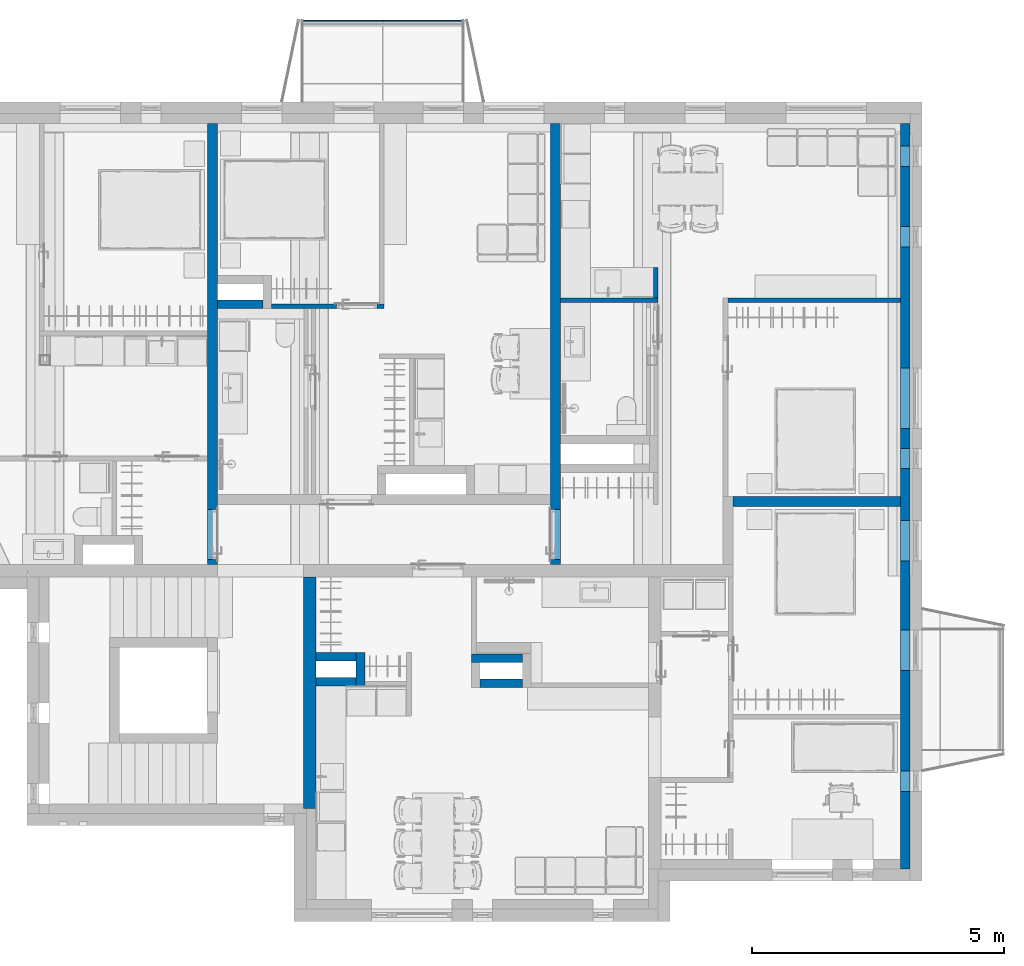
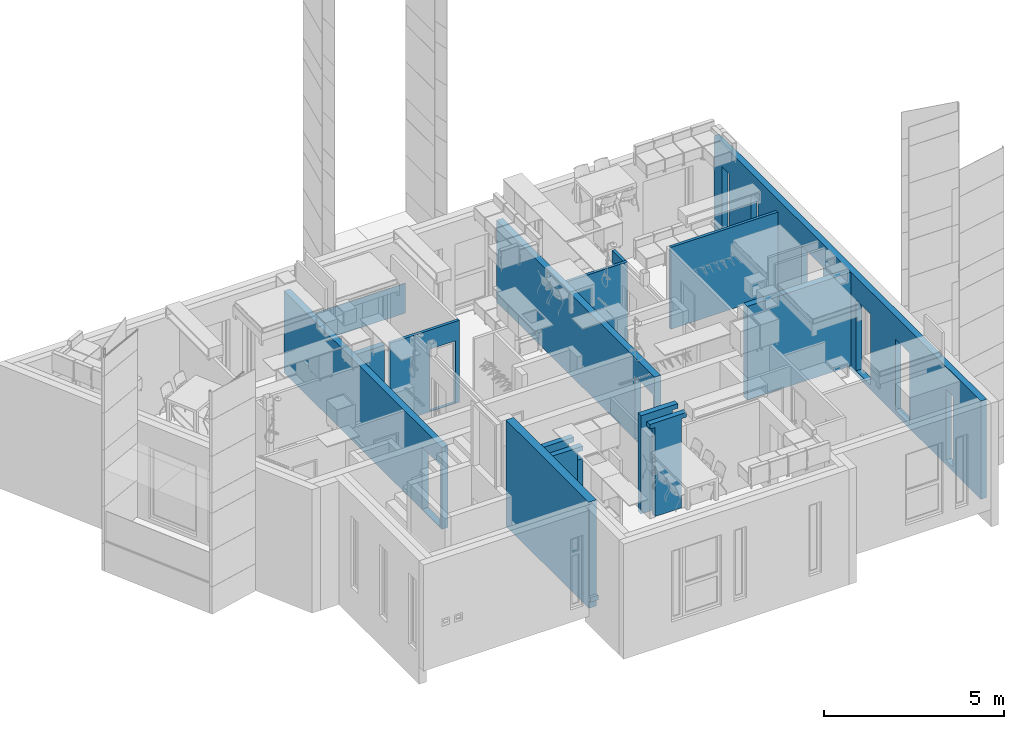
# One storey, part 8 of 125: 16 walls, 7 openings.
"""IFC2X3 building model written with IfcOpenShell, lengths in millimetres."""

from ifc_helpers import new_model, entity, si_unit, converted_unit, direction, frame, frame_2d, origin, place, context, subcontext, project, spatial, rectangle, extrude, faceted_brep, material, layer, layer_set, layer_usage, type_object, element, save


model = new_model("IFC2X3")

# Units and contexts
model_context = context("Model", 3, precision=0.01, world=origin(), true_north=direction((6.123233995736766e-17, 1.0)))
plan_context = context("Plan", 3, precision=0.01, world=origin(), true_north=direction((6.123233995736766e-17, 1.0)))
body_context = subcontext(model_context, "Body", "Model", "MODEL_VIEW")
ifc_project = project(units=[si_unit("LENGTHUNIT", "METRE", prefix="MILLI"), converted_unit("PLANEANGLEUNIT", "DEGREE", entity("IfcPlaneAngleMeasure", 0.017453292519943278), si_unit("PLANEANGLEUNIT", "RADIAN"), dimensions=[0, 0, 0, 0, 0, 0, 0]), si_unit("AREAUNIT", "SQUARE_METRE")], contexts=[model_context, plan_context])

# Site, building, storey
site_placement = place(None, origin())
site = spatial("IfcSite", under=ifc_project, at=site_placement, Name="Default", CompositionType="ELEMENT")
building_placement = place(site_placement, origin())
building = spatial("IfcBuilding", under=site, at=building_placement, CompositionType="ELEMENT")
storey_placement = place(building_placement, frame((0.0, 0.0, 3125.0)))
storey = spatial("IfcBuildingStorey", under=building, at=storey_placement, Name="2K", CompositionType="ELEMENT", Elevation=3125.0)

# Wall, openings
ifc_material_1 = material(Name="_K. Väisviimistlus. Krohv. Valge")
ifc_layer_1 = layer(ifc_material_1, 5.0)
ifc_material_2 = material(Name="_K. Müüritis. Väikeplokk. Betoon-õõnesplokk")
ifc_layer_2 = layer(ifc_material_2, 190.00000000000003)
ifc_layer_3 = layer(ifc_material_1, 5.0)
ifc_layer_set_1 = layer_set([ifc_layer_1, ifc_layer_2, ifc_layer_3], Name="Basic Wall:SS-01. 190")
ifc_layer_usage_1 = layer_usage(ifc_layer_set_1, "AXIS2", "NEGATIVE", 100.00000000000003)
wall_type_1 = type_object("IfcWallType", Name="Basic Wall:SS-01. 190", PredefinedType="STANDARD", material=ifc_layer_set_1)
wall_1_placement = place(storey_placement, frame((17000.0, 15400.0, -154.99979782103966), z_axis=(0.0, 0.0, 1.0), x_axis=(0.0, -1.0, 0.0)))
wall_1 = element("IfcWallStandardCase", 1, at=wall_1_placement, inside=storey, type_object=wall_type_1, material=ifc_layer_usage_1, Name="Basic Wall:SS-01. 190", ObjectType="Basic Wall:SS-01. 190", context=body_context, shape_type="SweptSolid", body=[
    extrude(rectangle(XDim=190.0000000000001, YDim=14789.999999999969, at=frame_2d((1.0871303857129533e-12, 0.0), x_axis=(1.0, 0.0))), frame((7395.0, -5.0, 0.0), z_axis=(0.0, 0.0, 1.0), x_axis=(0.0, 1.0, 0.0)), (0.0, 0.0, 1.0), 3324.999797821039),
])
opening_1_placement = place(storey_placement, frame((17000.0, 15400.0, -154.99979782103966), z_axis=(0.0, 0.0, 1.0), x_axis=(0.0, -1.0, 0.0)))
element("IfcOpeningElement", 2, at=opening_1_placement, cuts=wall_1, Name="Basic Wall:SS-01. 190:1", ObjectType="Opening", context=body_context, shape_type="SweptSolid", body=[
    extrude(rectangle(XDim=2400.000000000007, YDim=800.0, at=frame_2d((-3.296918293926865e-12, 0.0), x_axis=(1.0, 0.0))), frame((10450.0, 90.0, 1354.999797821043), z_axis=(0.0, -1.0, 0.0), x_axis=(0.0, 0.0, 1.0)), (0.0, 0.0, 1.0), 190.00000000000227),
])
opening_2_placement = place(storey_placement, frame((17000.0, 15400.0, -154.99979782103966), z_axis=(0.0, 0.0, 1.0), x_axis=(0.0, -1.0, 0.0)))
element("IfcOpeningElement", 3, at=opening_2_placement, cuts=wall_1, Name="Basic Wall:SS-01. 190:2", ObjectType="Opening", context=body_context, shape_type="SweptSolid", body=[
    extrude(rectangle(XDim=2400.000000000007, YDim=800.0, at=frame_2d((-3.296918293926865e-12, 5.684341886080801e-13), x_axis=(1.0, 0.0))), frame((8280.0, 90.0, 1354.999797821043), z_axis=(0.0, -1.0, 0.0), x_axis=(0.0, 0.0, 1.0)), (0.0, 0.0, 1.0), 190.00000000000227),
])
opening_3_placement = place(storey_placement, frame((17000.0, 15400.0, -154.99979782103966), z_axis=(0.0, 0.0, 1.0), x_axis=(0.0, -1.0, 0.0)))
element("IfcOpeningElement", 4, at=opening_3_placement, cuts=wall_1, Name="Basic Wall:SS-01. 190:3", ObjectType="Opening", context=body_context, shape_type="SweptSolid", body=[
    extrude(rectangle(XDim=2400.0000000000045, YDim=1200.0, at=frame_2d((-1.5916157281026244e-12, 0.0), x_axis=(1.0, 0.0))), frame((5450.0, 90.0, 1354.9997978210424), z_axis=(0.0, -1.0, 0.0), x_axis=(0.0, 0.0, 1.0)), (0.0, 0.0, 1.0), 190.00000000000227),
])
opening_4_placement = place(storey_placement, frame((17000.0, 15400.0, -154.99979782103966), z_axis=(0.0, 0.0, 1.0), x_axis=(0.0, -1.0, 0.0)))
element("IfcOpeningElement", 5, at=opening_4_placement, cuts=wall_1, Name="Basic Wall:SS-01. 190:4", ObjectType="Opening", context=body_context, shape_type="SweptSolid", body=[
    extrude(rectangle(XDim=2400.000000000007, YDim=400.00000000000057, at=frame_2d((-3.296918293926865e-12, -2.7000623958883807e-13), x_axis=(1.0, 0.0))), frame((13050.0, 90.0, 1354.999797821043), z_axis=(0.0, -1.0, 0.0), x_axis=(0.0, 0.0, 1.0)), (0.0, 0.0, 1.0), 190.00000000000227),
])
opening_5_placement = place(storey_placement, frame((17000.0, 15400.0, -154.99979782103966), z_axis=(0.0, 0.0, 1.0), x_axis=(0.0, -1.0, 0.0)))
element("IfcOpeningElement", 6, at=opening_5_placement, cuts=wall_1, Name="Basic Wall:SS-01. 190:5", ObjectType="Opening", context=body_context, shape_type="SweptSolid", body=[
    extrude(rectangle(XDim=2400.000000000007, YDim=400.0, at=frame_2d((-3.296918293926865e-12, -5.542233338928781e-13), x_axis=(1.0, 0.0))), frame((6650.0, 90.0, 1354.999797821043), z_axis=(0.0, -1.0, 0.0), x_axis=(0.0, 0.0, 1.0)), (0.0, 0.0, 1.0), 190.00000000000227),
])
opening_6_placement = place(storey_placement, frame((17000.0, 15400.0, -154.99979782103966), z_axis=(0.0, 0.0, 1.0), x_axis=(0.0, -1.0, 0.0)))
element("IfcOpeningElement", 7, at=opening_6_placement, cuts=wall_1, Name="Basic Wall:SS-01. 190:6", ObjectType="Opening", context=body_context, shape_type="SweptSolid", body=[
    extrude(rectangle(XDim=2400.000000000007, YDim=400.0, at=frame_2d((-3.296918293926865e-12, 0.0), x_axis=(1.0, 0.0))), frame((2250.0, 90.0, 1354.999797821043), z_axis=(0.0, -1.0, 0.0), x_axis=(0.0, 0.0, 1.0)), (0.0, 0.0, 1.0), 190.00000000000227),
])
opening_7_placement = place(storey_placement, frame((17000.0, 15400.0, -154.99979782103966), z_axis=(0.0, 0.0, 1.0), x_axis=(0.0, -1.0, 0.0)))
element("IfcOpeningElement", 8, at=opening_7_placement, cuts=wall_1, Name="Basic Wall:SS-01. 190:7", ObjectType="Opening", context=body_context, shape_type="SweptSolid", body=[
    extrude(rectangle(XDim=2400.000000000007, YDim=400.0, at=frame_2d((-3.296918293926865e-12, -2.1742607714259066e-12), x_axis=(1.0, 0.0))), frame((650.0, 90.0, 1354.999797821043), z_axis=(0.0, -1.0, 0.0), x_axis=(0.0, 0.0, 1.0)), (0.0, 0.0, 1.0), 190.00000000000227),
])

# Walls
wall_2_placement = place(storey_placement, frame((3244.993534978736, 6649.999959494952, -20.00019836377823), z_axis=(0.0, 0.0, 1.0), x_axis=(0.0, 1.0, 0.0)))
element("IfcWall", 9, at=wall_2_placement, inside=storey, type_object=wall_type_1, Name="Basic Wall:SS-01. 190", ObjectType="Basic Wall:SS-01. 190", context=body_context, shape_type="Brep", body=[
    faceted_brep([(8750.000040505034, -100.0, 2770.0001983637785), (5730.000040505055, -100.0, 2770.0001983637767), (5560.000040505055, -100.0, 2770.0001983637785), (5250.000040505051, -100.0, 2770.0001983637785), (5080.000040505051, -100.0, 2770.0001983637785), (1390.0000405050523, -100.0, 2770.0001983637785), (1190.0000405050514, -100.0, 2770.0001983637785), (0.0, -100.0, 2770.0001983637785), (0.0, -100.0, 2320.0001983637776), (0.0, -100.0, 20.000198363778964), (0.0, -100.0, 0.0), (1190.0000405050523, -100.0, 0.0), (1390.0000405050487, -100.0, 0.0), (2590.0000405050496, -100.0, 0.0), (5080.000040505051, -100.0, 0.0), (5250.000040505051, -100.0, 0.0), (5560.000040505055, -100.0, 0.0), (5730.000040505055, -100.0, 0.0), (8750.000040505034, -100.0, 0.0), (95.0000202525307, -100.0, 20.00019836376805), (95.0000202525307, -100.0, 2120.0001983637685), (1095.0000202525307, -100.0, 2120.0001983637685), (1095.0000202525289, -100.0, 20.00019836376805), (95.00002025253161, 100.0, 2120.0001983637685), (95.00002025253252, 100.0, 20.00019836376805), (1095.0000202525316, 100.0, 20.000198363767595), (1095.0000202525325, 100.0, 2120.0001983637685), (0.0, 100.0, 2770.0001983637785), (2056.000040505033, 100.0, 2770.0001983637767), (2148.000040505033, 100.0, 2770.0001983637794), (4537.000040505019, 100.0, 2770.0001983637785), (4629.0000405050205, 100.0, 2770.0001983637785), (8750.000040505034, 100.0, 2770.0001983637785), (8750.000040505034, 100.0, 0.0), (4629.0000405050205, 100.0, 0.0), (4537.000040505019, 100.0, 0.0), (2148.000040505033, 100.0, 0.0), (2056.000040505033, 100.0, 0.0), (0.0, 100.0, 0.0)], [[[0, 1, 2, 3, 4, 5, 6, 7, 8, 9, 10, 11, 12, 13, 14, 15, 16, 17, 18], [19, 20, 21, 22]], [[23, 24, 25, 26], [27, 28, 29, 30, 31, 32, 33, 34, 35, 36, 37, 38]], [[7, 6, 5, 4, 3, 2, 1, 0, 32, 31, 30, 29, 28, 27]], [[32, 0, 18, 33]], [[7, 27, 38, 10, 9, 8]], [[19, 24, 23, 20]], [[24, 19, 22, 25]], [[25, 22, 21, 26]], [[20, 23, 26, 21]], [[18, 17, 16, 15, 14, 13, 12, 11, 10, 38, 37, 36, 35, 34, 33]]], outer=[[True, False], [False, True], [True], [True], [True], [True], [True], [True], [True], [True]]),
])
wall_3_placement = place(storey_placement, frame((10050.0, 6649.999959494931, -20.00019836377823), z_axis=(0.0, 0.0, 1.0), x_axis=(0.0, 1.0, 0.0)))
element("IfcWall", 10, at=wall_3_placement, inside=storey, type_object=wall_type_1, Name="Basic Wall:SS-01. 190", ObjectType="Basic Wall:SS-01. 190", context=body_context, shape_type="Brep", body=[
    faceted_brep([(8750.000040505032, -100.0, 2770.0001983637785), (5290.000040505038, -100.0, 2770.0001983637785), (5198.000040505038, -100.0, 2770.0001983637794), (0.0, -100.0, 2770.0001983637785), (0.0, -100.0, 0.0), (1990.0000405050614, -100.0, 0.0), (2390.0000405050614, -100.0, 0.0), (2560.000040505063, -100.0, 0.0), (3640.000040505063, -100.0, 0.0), (5198.000040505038, -100.0, 0.0), (5290.000040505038, -100.0, 0.0), (8750.000040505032, -100.0, 0.0), (1095.0000202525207, -100.0, 2120.0001983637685), (1095.0000202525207, -100.0, 20.00019836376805), (95.0000202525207, -100.0, 20.000198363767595), (95.0000202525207, -100.0, 2120.0001983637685), (0.0, 100.0, 2770.0001983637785), (1190.0000405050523, 100.0, 2770.0001983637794), (1390.0000405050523, 100.0, 2770.0001983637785), (8750.000040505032, 100.0, 2770.0001983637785), (8750.000040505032, 100.0, 0.0), (1390.0000405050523, 100.0, 0.0), (1190.0000405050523, 100.0, 0.0), (0.0, 100.0, 0.0), (1095.0000202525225, 100.0, 20.000198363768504), (1095.0000202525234, 100.0, 2120.0001983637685), (95.00002025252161, 100.0, 2120.0001983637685), (95.00002025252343, 100.0, 20.00019836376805)], [[[0, 1, 2, 3, 4, 5, 6, 7, 8, 9, 10, 11], [12, 13, 14, 15]], [[16, 17, 18, 19, 20, 21, 22, 23], [24, 25, 26, 27]], [[3, 2, 1, 0, 19, 18, 17, 16]], [[3, 16, 23, 4]], [[19, 0, 11, 20]], [[24, 13, 12, 25]], [[13, 24, 27, 14]], [[14, 27, 26, 15]], [[25, 12, 15, 26]], [[11, 10, 9, 8, 7, 6, 5, 4, 23, 22, 21, 20]]]),
])
ifc_layer_usage_2 = layer_usage(ifc_layer_set_1, "AXIS2", "NEGATIVE", 100.00000000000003)
wall_4_placement = place(storey_placement, frame((13580.0, 7899.999959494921, 0.0)))
element("IfcWallStandardCase", 11, at=wall_4_placement, inside=storey, type_object=wall_type_1, material=ifc_layer_usage_2, Name="Basic Wall:SS-01. 190", ObjectType="Basic Wall:SS-01. 190", context=body_context, shape_type="SweptSolid", body=[
    extrude(rectangle(XDim=3319.9999999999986, YDim=200.0, at=frame_2d((1659.9999999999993, 1.2789769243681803e-13), x_axis=(-1.0, 0.0))), origin(), (0.0, 0.0, 1.0), 3169.9999999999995),
])
ifc_layer_4 = layer(ifc_material_1, 5.0)
ifc_layer_5 = layer(ifc_material_2, 240.0)
ifc_layer_6 = layer(ifc_material_1, 5.0)
ifc_layer_set_2 = layer_set([ifc_layer_4, ifc_layer_5, ifc_layer_6], Name="Basic Wall:SS-01.240")
wall_type_2 = type_object("IfcWallType", Name="Basic Wall:SS-01.240", PredefinedType="STANDARD", material=ifc_layer_set_2)
wall_5_placement = place(storey_placement, frame((5174.995060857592, 1710.0, -420.0), z_axis=(0.0, 0.0, 1.0), x_axis=(0.0, 1.0, 0.0)))
element("IfcWall", 12, at=wall_5_placement, inside=storey, type_object=wall_type_2, Name="Basic Wall:SS-01.240", ObjectType="Basic Wall:SS-01.240", context=body_context, shape_type="Brep", body=[
    faceted_brep([(95.0, -125.0, 0.0), (3020.0, -125.0, 0.0), (3190.0, -125.0, 0.0), (4689.999959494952, -125.0, 0.0), (4689.999959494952, -125.0, 265.0), (4689.999959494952, -125.0, 399.9998016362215), (4689.999959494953, -125.0, 3170.0), (4689.999959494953, -125.0, 3590.0), (3190.0, -125.0, 3590.0), (3020.0, -125.0, 3590.0), (2700.0, -125.0, 3590.0), (2530.0, -125.0, 3590.0), (95.0, -125.0, 3590.0), (95.0, -125.0, 420.0), (0.0, -125.0, 420.0), (0.0, -125.0, 265.0002019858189), (95.0, -125.0, 265.0002019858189), (95.0, 125.0, 0.0), (95.0, 125.0, 265.0002019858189), (0.0, 125.0, 265.0002019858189), (0.0, 125.0, 420.0), (95.0, 125.0, 420.0), (95.0, 125.0, 3590.0), (190.0, 125.0, 3590.0), (4689.999959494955, 125.0, 3590.0), (4689.999959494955, 125.0, 2720.0), (4689.999959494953, 125.0, 420.0), (4689.999959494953, 125.0, 0.0), (95.0, 65.0, 3590.0), (95.0, 65.0, 420.0), (0.0, 65.0, 420.0)], [[[0, 1, 2, 3, 4, 5, 6, 7, 8, 9, 10, 11, 12, 13, 14, 15, 16]], [[17, 18, 19, 20, 21, 22, 23, 24, 25, 26, 27]], [[3, 2, 1, 0, 17, 27]], [[12, 11, 10, 9, 8, 7, 24, 23, 22, 28]], [[7, 6, 5, 4, 3, 27, 26, 25, 24]], [[0, 16, 18, 17]], [[15, 19, 18, 16]], [[13, 12, 28, 22, 21, 29]], [[13, 29, 21, 20, 30, 14]], [[15, 14, 30, 20, 19]]]),
])
ifc_material_3 = material(Name="_K. Ehitusplaat. Kipsplaat. Erikõva")
ifc_layer_7 = layer(ifc_material_3, 13.000000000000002)
ifc_material_4 = material(Name="_K. Soojustus. Mineraalvill")
ifc_layer_8 = layer(ifc_material_4, 66.0)
ifc_layer_9 = layer(ifc_material_3, 13.000000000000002)
ifc_layer_set_3 = layer_set([ifc_layer_7, ifc_layer_8, ifc_layer_9], Name="Basic Wall:SS-401")
ifc_layer_usage_3 = layer_usage(ifc_layer_set_3, "AXIS2", "NEGATIVE", 46.00000000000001)
wall_type_3 = type_object("IfcWallType", Name="Basic Wall:SS-401", PredefinedType="STANDARD", material=ifc_layer_set_3)
wall_6_placement = place(storey_placement, frame((13472.0, 11894.0, -20.0)))
element("IfcWallStandardCase", 13, at=wall_6_placement, inside=storey, type_object=wall_type_3, material=ifc_layer_usage_3, Name="Basic Wall:SS-401", ObjectType="Basic Wall:SS-401", context=body_context, shape_type="SweptSolid", body=[
    extrude(rectangle(XDim=3427.999999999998, YDim=92.00000000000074, at=frame_2d((1713.999999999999, -6.714628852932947e-13), x_axis=(-1.0, 0.0))), origin(), (0.0, 0.0, 1.0), 2769.9999999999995),
])
ifc_layer_usage_4 = layer_usage(ifc_layer_set_3, "AXIS2", "NEGATIVE", 46.00000000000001)
wall_7_placement = place(storey_placement, frame((10150.0, 11894.0, -20.0)))
element("IfcWallStandardCase", 14, at=wall_7_placement, inside=storey, type_object=wall_type_3, material=ifc_layer_usage_4, Name="Basic Wall:SS-401", ObjectType="Basic Wall:SS-401", context=body_context, shape_type="SweptSolid", body=[
    extrude(rectangle(XDim=1938.0000000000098, YDim=92.00000000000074, at=frame_2d((969.0000000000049, 4.263256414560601e-14), x_axis=(-1.0, 0.0))), origin(), (0.0, 0.0, 1.0), 2769.9999999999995),
])
ifc_layer_usage_5 = layer_usage(ifc_layer_set_3, "AXIS2", "NEGATIVE", 46.00000000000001)
wall_8_placement = place(storey_placement, frame((12042.0, 11940.0, -20.0), z_axis=(0.0, 0.0, 1.0), x_axis=(0.0, 1.0, 0.0)))
element("IfcWallStandardCase", 15, at=wall_8_placement, inside=storey, type_object=wall_type_3, material=ifc_layer_usage_5, Name="Basic Wall:SS-401", ObjectType="Basic Wall:SS-401", context=body_context, shape_type="SweptSolid", body=[
    extrude(rectangle(XDim=600.0000000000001, YDim=92.00000000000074, at=frame_2d((300.00000000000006, 5.009326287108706e-13), x_axis=(-1.0, 0.0))), origin(), (0.0, 0.0, 1.0), 2769.9999999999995),
])
wall_9_placement = place(storey_placement, frame((4335.0, 11776.0, -20.0)))
element("IfcWall", 16, at=wall_9_placement, inside=storey, type_object=wall_type_3, Name="Basic Wall:SS-401", ObjectType="Basic Wall:SS-401", context=body_context, shape_type="Brep", body=[
    faceted_brep([(0.0, -46.0, 0.0), (727.0, -46.0, 0.0), (806.0, -46.0, 0.0), (874.0, -46.0, 0.0), (953.0, -46.0, 0.0), (2315.0, -46.0, 0.0), (2315.0, -46.0, 2770.0), (953.0, -46.0, 2770.0), (874.0, -46.0, 2770.0), (806.0, -46.0, 2770.0), (727.0, -46.0, 2770.0), (85.0, -46.0, 2770.0), (85.0, -46.0, 20.0), (0.0, -46.0, 20.0), (2173.0, -46.0, 2120.0), (2173.0, -46.0, 20.0), (1373.0, -46.0, 20.0), (1373.0, -46.0, 2120.0), (2315.0, 46.0, 0.0), (2223.0, 46.0, 0.0), (0.0, 46.0, 0.0), (0.0, 46.0, 20.0), (85.0, 46.0, 20.0), (85.0, 46.0, 2770.0), (2223.0, 46.0, 2770.0), (2315.0, 46.0, 2770.0), (2173.0, 46.0, 20.0), (2173.0, 46.0, 2120.0), (1373.0, 46.0, 2120.0), (1373.0, 46.0, 20.0)], [[[0, 1, 2, 3, 4, 5, 6, 7, 8, 9, 10, 11, 12, 13], [14, 15, 16, 17]], [[18, 19, 20, 21, 22, 23, 24, 25], [26, 27, 28, 29]], [[5, 4, 3, 2, 1, 0, 20, 19, 18]], [[11, 10, 9, 8, 7, 6, 25, 24, 23]], [[6, 5, 18, 25]], [[14, 27, 26, 15]], [[15, 26, 29, 16]], [[16, 29, 28, 17]], [[27, 14, 17, 28]], [[20, 0, 13, 21]], [[22, 21, 13, 12]], [[11, 23, 22, 12]]]),
])
ifc_layer_10 = layer(ifc_material_1, 10.0)
ifc_material_5 = material(Name="_K. Müüritis. Väikeplokk. Kergkruusplokk")
ifc_layer_11 = layer(ifc_material_5, 150.0)
ifc_layer_12 = layer(ifc_material_1, 10.0)
ifc_layer_set_4 = layer_set([ifc_layer_10, ifc_layer_11, ifc_layer_12], Name="Basic Wall:SS-03. Šahti sein")
wall_type_4 = type_object("IfcWallType", Name="Basic Wall:SS-03. Šahti sein", PredefinedType="STANDARD", material=ifc_layer_set_4)
wall_10_placement = place(storey_placement, frame((3344.9935349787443, 11815.0, -20.00019836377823)))
element("IfcWall", 17, at=wall_10_placement, inside=storey, type_object=wall_type_4, Name="Basic Wall:SS-03. Šahti sein", ObjectType="Basic Wall:SS-03. Šahti sein", context=body_context, shape_type="Brep", body=[
    faceted_brep([(905.0064650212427, -85.0, 2770.0001983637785), (0.0, -85.0, 2770.0001983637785), (0.0, -85.0, 0.0), (990.0064650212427, -85.0, 0.0), (990.0064650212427, -85.0, 20.00019836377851), (905.0064650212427, -85.0, 20.00019836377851), (0.0, 85.0, 2770.0001983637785), (905.0064650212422, 85.0, 2770.0001983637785), (905.0064650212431, 85.0, 20.00019836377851), (990.0064650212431, 85.0, 20.00019836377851), (990.0064650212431, 85.0, 0.0), (905.0064650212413, 85.0, 0.0), (5.006465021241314, 85.0, 0.0), (0.0, 85.0, 0.0), (990.0064650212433, 7.0, 20.00019836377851), (990.0064650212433, 7.0, 0.0)], [[[0, 1, 2, 3, 4, 5]], [[6, 7, 8, 9, 10, 11, 12, 13]], [[1, 0, 7, 6]], [[9, 14, 4, 3, 15, 10]], [[7, 0, 5, 8]], [[1, 6, 13, 2]], [[5, 4, 14, 9, 8]], [[3, 2, 13, 12, 11, 10, 15]]]),
])
wall_11_placement = place(storey_placement, frame((8390.0, 4785.0, -155.0)))
element("IfcWall", 18, at=wall_11_placement, inside=storey, type_object=wall_type_4, Name="Basic Wall:SS-03. Šahti sein", ObjectType="Basic Wall:SS-03. Šahti sein", context=body_context, shape_type="Brep", body=[
    faceted_brep([(0.0, -85.0, 3325.0), (0.0, -85.0, 3305.0), (0.0, -85.0, 2905.0), (0.0, -85.0, 134.99980163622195), (0.0, -85.0, 0.0), (1010.0, -85.0, 0.0), (1010.0, -85.0, 3170.0), (1180.0, -85.0, 3170.0), (1180.0, -85.0, 3305.0), (1180.0, -85.0, 3325.0), (1010.0, -85.0, 3325.0), (0.0, 85.0, 0.0), (0.0, 85.0, 135.0), (0.0, 85.0, 2905.0), (0.0, 85.0, 3305.0), (0.0, 85.0, 3325.0), (1010.0, 85.0, 3325.0), (1180.0, 85.0, 3325.0), (1180.0, 85.0, 3170.0), (1010.0, 85.0, 3170.0), (1010.0, 85.0, 2905.0), (1010.0, 85.0, 134.99980163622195), (1010.0, 85.0, 0.0)], [[[0, 1, 2, 3, 4, 5, 6, 7, 8, 9, 10]], [[11, 12, 13, 14, 15, 16, 17, 18, 19, 20, 21, 22]], [[5, 4, 11, 22]], [[0, 10, 9, 17, 16, 15]], [[6, 5, 22, 21, 20, 19]], [[9, 8, 7, 18, 17]], [[0, 15, 14, 13, 12, 11, 4, 3, 2, 1]], [[18, 7, 6, 19]]]),
])
wall_12_placement = place(storey_placement, frame((8390.0, 4295.0, 0.0)))
element("IfcWall", 19, at=wall_12_placement, inside=storey, type_object=wall_type_4, Name="Basic Wall:SS-03. Šahti sein", ObjectType="Basic Wall:SS-03. Šahti sein", context=body_context, shape_type="Brep", body=[
    faceted_brep([(170.0, -85.0, 0.0), (1010.0, -85.0, 0.0), (1010.0, -85.0, 2750.0), (1010.0, -85.0, 3015.0), (1180.0, -85.0, 3015.0), (1180.0, -85.0, 3170.0), (1010.0, -85.0, 3170.0), (170.0, -85.0, 3170.0), (0.0, -85.0, 3170.0), (0.0, -85.0, 3015.0), (170.0, -85.0, 3015.0), (170.0, -85.0, 2750.0), (170.0, 85.0, 0.0), (170.0, 85.0, 3015.0), (0.0, 85.0, 3015.0), (0.0, 85.0, 3150.0), (0.0, 85.0, 3170.0), (170.0, 85.0, 3170.0), (1010.0, 85.0, 3170.0), (1180.0, 85.0, 3170.0), (1180.0, 85.0, 3150.0), (1180.0, 85.0, 3015.0), (1010.0, 85.0, 3015.0), (1010.0, 85.0, 0.0)], [[[0, 1, 2, 3, 4, 5, 6, 7, 8, 9, 10, 11]], [[12, 13, 14, 15, 16, 17, 18, 19, 20, 21, 22, 23]], [[1, 0, 12, 23]], [[8, 7, 6, 5, 19, 18, 17, 16]], [[3, 2, 1, 23, 22]], [[9, 14, 13, 10]], [[0, 11, 10, 13, 12]], [[9, 8, 16, 15, 14]], [[21, 4, 3, 22]], [[4, 21, 20, 19, 5]]]),
])
wall_13_placement = place(storey_placement, frame((5299.995060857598, 4815.0, 0.0)))
element("IfcWall", 20, at=wall_13_placement, inside=storey, type_object=wall_type_4, Name="Basic Wall:SS-03. Šahti sein", ObjectType="Basic Wall:SS-03. Šahti sein", context=body_context, shape_type="Brep", body=[
    faceted_brep([(0.0, -85.0, 0.0), (800.0021362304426, -85.0, 0.0), (800.0021362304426, -85.0, 3015.0), (970.0021362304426, -85.0, 3015.0), (970.0021362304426, -85.0, 3150.0), (970.0021362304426, -85.0, 3170.0), (800.0021362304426, -85.0, 3170.0), (0.0, -85.0, 3170.0), (0.0, 85.0, 0.0), (0.0, 85.0, 3170.0), (800.002136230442, 85.0, 3170.0), (970.002136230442, 85.0, 3170.0), (970.002136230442, 85.0, 3015.0), (800.002136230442, 85.0, 3015.0), (800.002136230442, 85.0, 2750.0), (800.002136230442, 85.0, 45.0), (800.002136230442, 85.0, 0.0)], [[[0, 1, 2, 3, 4, 5, 6, 7]], [[8, 9, 10, 11, 12, 13, 14, 15, 16]], [[1, 0, 8, 16]], [[7, 6, 5, 11, 10, 9]], [[0, 7, 9, 8]], [[12, 3, 2, 13]], [[1, 16, 15, 14, 13, 2]], [[5, 4, 3, 12, 11]]]),
])
wall_14_placement = place(storey_placement, frame((6184.997197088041, 4900.0, -20.00019836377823), z_axis=(0.0, 0.0, 1.0), x_axis=(0.0, -1.0, 0.0)))
element("IfcWall", 21, at=wall_14_placement, inside=storey, type_object=wall_type_4, Name="Basic Wall:SS-03. Šahti sein", ObjectType="Basic Wall:SS-03. Šahti sein", context=body_context, shape_type="Brep", body=[
    faceted_brep([(660.0, -85.0, 2770.0001983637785), (0.0, -85.0, 2770.0001983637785), (0.0, -85.0, 65.00019836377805), (170.0, -85.0, 65.00019836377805), (170.0, -85.0, 0.0), (600.0, -85.0, 0.0), (660.0, -85.0, 0.0), (660.0, -85.0, 20.00019836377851), (0.0, 85.0, 2770.0001983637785), (568.0, 85.0, 2770.0001983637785), (660.0, 85.0, 2770.0001983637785), (660.0, 85.0, 0.0), (568.0, 85.0, 0.0), (170.0, 85.0, 0.0), (170.0, 85.0, 65.00019836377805), (0.0, 85.0, 65.00019836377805)], [[[0, 1, 2, 3, 4, 5, 6, 7]], [[8, 9, 10, 11, 12, 13, 14, 15]], [[1, 0, 10, 9, 8]], [[10, 0, 7, 6, 11]], [[15, 14, 3, 2]], [[3, 14, 13, 4]], [[2, 1, 8, 15]], [[5, 4, 13, 12, 11, 6]]]),
])
wall_15_placement = place(storey_placement, frame((5299.995060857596, 4325.0, 0.0)))
element("IfcWall", 22, at=wall_15_placement, inside=storey, type_object=wall_type_4, Name="Basic Wall:SS-03. Šahti sein", ObjectType="Basic Wall:SS-03. Šahti sein", context=body_context, shape_type="Brep", body=[
    faceted_brep([(0.0, -85.0, 0.0), (800.0021362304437, -85.0, 0.0), (800.0021362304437, -85.0, 2750.0), (800.0021362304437, -85.0, 3015.0), (970.0021362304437, -85.0, 3015.0), (970.0021362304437, -85.0, 3170.0), (800.0021362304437, -85.0, 3170.0), (0.0, -85.0, 3170.0), (0.0, 85.0, 0.0), (0.0, 85.0, 3170.0), (800.0021362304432, 85.0, 3170.0), (970.0021362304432, 85.0, 3170.0), (970.0021362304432, 85.0, 3015.0), (800.0021362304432, 85.0, 3015.0), (800.0021362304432, 85.0, 0.0)], [[[0, 1, 2, 3, 4, 5, 6, 7]], [[8, 9, 10, 11, 12, 13, 14]], [[1, 0, 8, 14]], [[7, 6, 5, 11, 10, 9]], [[0, 7, 9, 8]], [[3, 2, 1, 14, 13]], [[4, 12, 11, 5]], [[12, 4, 3, 13]]]),
])
ifc_material_6 = material(Name="_K. Välisviimistlus. Alumiinium-komposiitplaat")
ifc_layer_13 = layer(ifc_material_6, 4.0)
ifc_material_7 = material(Name="_K. Õhk. Roov. Fassaadikatte alusroov. Horisontaalne. 25 mm")
ifc_layer_14 = layer(ifc_material_7, 16.0)
ifc_layer_set_5 = layer_set([ifc_layer_13, ifc_layer_14], Name="Basic Wall:VS-komposiit")
ifc_layer_usage_6 = layer_usage(ifc_layer_set_5, "AXIS2", "NEGATIVE", 10.000000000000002)
wall_type_5 = type_object("IfcWallType", Name="Basic Wall:VS-komposiit", PredefinedType="STANDARD")
wall_16_placement = place(storey_placement, frame((5040.4165884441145, 17442.0, -1010.0)))
element("IfcWallStandardCase", 23, at=wall_16_placement, inside=storey, type_object=wall_type_5, material=ifc_layer_usage_6, Name="Basic Wall:VS-komposiit", ObjectType="Basic Wall:VS-komposiit", context=body_context, shape_type="SweptSolid", body=[
    extrude(rectangle(XDim=3169.583411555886, YDim=19.999999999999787, at=frame_2d((1584.791705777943, -1.234568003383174e-13), x_axis=(-1.0, 0.0))), origin(), (0.0, 0.0, 1.0), 1010.0),
])

save(model, "model.ifc")
